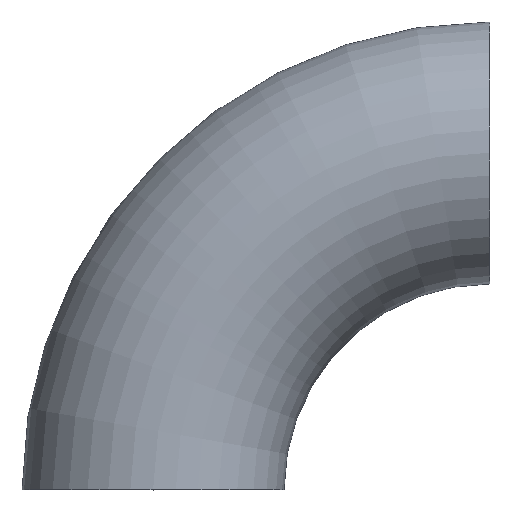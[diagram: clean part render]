
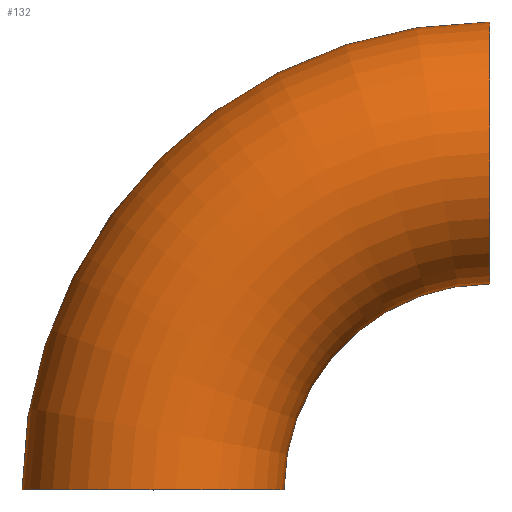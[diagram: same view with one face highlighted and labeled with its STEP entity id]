
A CAD part, top view. The second image highlights one B-rep face of the part: STEP entity #132.
In plain terms, the highlighted toroidal (fillet/blend) face has major radius 45 mm and minor radius 17.5 mm.
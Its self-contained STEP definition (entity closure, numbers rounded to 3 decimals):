
#1 = DIRECTION ( 'NONE',  ( 0., 0., 1. ) ) ;
#8 = AXIS2_PLACEMENT_3D ( 'NONE', #167, #242, #204 ) ;
#18 = VERTEX_POINT ( 'NONE', #232 ) ;
#19 = EDGE_CURVE ( 'NONE', #169, #230, #79, .T. ) ;
#25 = DIRECTION ( 'NONE',  ( 0., 0., 1. ) ) ;
#30 = TOROIDAL_SURFACE ( 'NONE', #186, 45., 17.5 ) ;
#39 = AXIS2_PLACEMENT_3D ( 'NONE', #127, #142, #89 ) ;
#44 = DIRECTION ( 'NONE',  ( 0., 0., 1. ) ) ;
#47 = CARTESIAN_POINT ( 'NONE',  ( 45., 27.5, 0. ) ) ;
#50 = AXIS2_PLACEMENT_3D ( 'NONE', #197, #235, #44 ) ;
#63 = EDGE_CURVE ( 'NONE', #169, #18, #234, .T. ) ;
#79 = CIRCLE ( 'NONE', #50, 17.5 ) ;
#80 = DIRECTION ( 'NONE',  ( 1., 0., 0. ) ) ;
#89 = DIRECTION ( 'NONE',  ( 0., 0., 1. ) ) ;
#115 = VERTEX_POINT ( 'NONE', #213 ) ;
#117 = AXIS2_PLACEMENT_3D ( 'NONE', #175, #1, #140 ) ;
#127 = CARTESIAN_POINT ( 'NONE',  ( 0., 0., 0. ) ) ;
#132 = ADVANCED_FACE ( 'NONE', ( #138 ), #30, .T. ) ;
#137 = CIRCLE ( 'NONE', #39, 17.5 ) ;
#138 = FACE_OUTER_BOUND ( 'NONE', #248, .T. ) ;
#140 = DIRECTION ( 'NONE',  ( 1., 0., 0. ) ) ;
#142 = DIRECTION ( 'NONE',  ( 0., 1., 0. ) ) ;
#147 = CARTESIAN_POINT ( 'NONE',  ( 45., 62.5, 0. ) ) ;
#161 = ORIENTED_EDGE ( 'NONE', *, *, #19, .F. ) ;
#167 = CARTESIAN_POINT ( 'NONE',  ( 45., 0., 0. ) ) ;
#169 = VERTEX_POINT ( 'NONE', #147 ) ;
#175 = CARTESIAN_POINT ( 'NONE',  ( 45., 0., 0. ) ) ;
#176 = CARTESIAN_POINT ( 'NONE',  ( 45., 0., 0. ) ) ;
#178 = EDGE_CURVE ( 'NONE', #230, #115, #250, .T. ) ;
#186 = AXIS2_PLACEMENT_3D ( 'NONE', #176, #25, #80 ) ;
#187 = ORIENTED_EDGE ( 'NONE', *, *, #178, .F. ) ;
#197 = CARTESIAN_POINT ( 'NONE',  ( 45., 45., 0. ) ) ;
#204 = DIRECTION ( 'NONE',  ( 1., 0., 0. ) ) ;
#213 = CARTESIAN_POINT ( 'NONE',  ( 17.5, 0., 0. ) ) ;
#219 = EDGE_CURVE ( 'NONE', #18, #115, #137, .T. ) ;
#230 = VERTEX_POINT ( 'NONE', #47 ) ;
#232 = CARTESIAN_POINT ( 'NONE',  ( -17.5, 0., 0. ) ) ;
#234 = CIRCLE ( 'NONE', #117, 62.5 ) ;
#235 = DIRECTION ( 'NONE',  ( 1., 0., 0. ) ) ;
#239 = ORIENTED_EDGE ( 'NONE', *, *, #219, .T. ) ;
#242 = DIRECTION ( 'NONE',  ( 0., 0., 1. ) ) ;
#244 = ORIENTED_EDGE ( 'NONE', *, *, #63, .T. ) ;
#248 = EDGE_LOOP ( 'NONE', ( #161, #244, #239, #187 ) ) ;
#250 = CIRCLE ( 'NONE', #8, 27.5 ) ;
